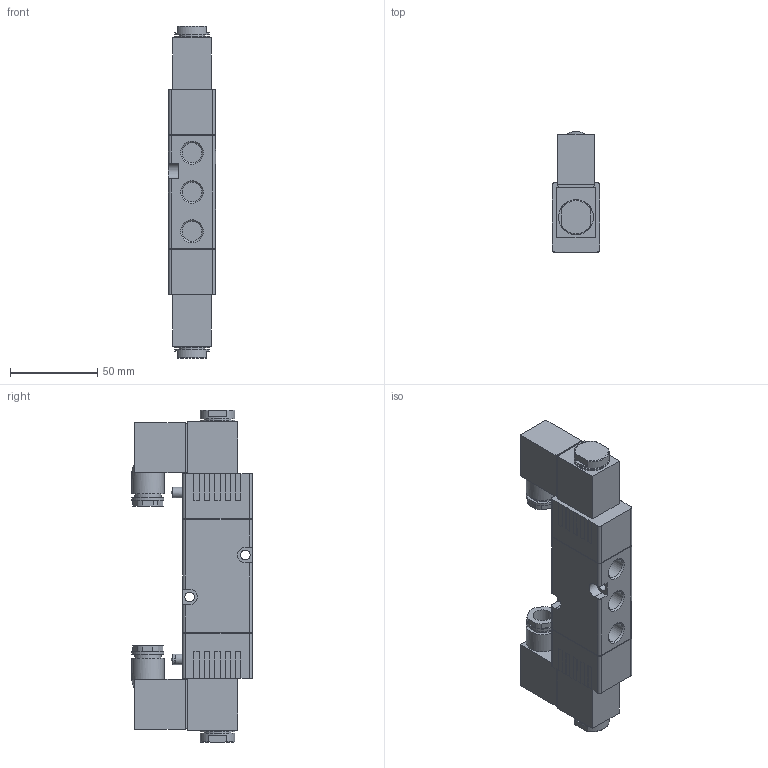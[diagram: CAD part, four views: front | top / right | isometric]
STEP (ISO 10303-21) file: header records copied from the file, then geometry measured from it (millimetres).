
FILE_DESCRIPTION(/* description */ ('STEP AP214'),/* implementation_level */ '2;1');
FILE_NAME(/* name */ '86-MN-4-14-520-M42.stp',/* time_stamp */ '2026-01-15T14:11:41+01:00',/* author */ ('Tschernatsch'),/* organization */ ('CADENAS'),/* preprocessor_version */ 'ST-DEVELOPER v20',/* originating_system */ 'Autodesk Inventor 2024',/* authorisation */ ' ');
FILE_SCHEMA (('AUTOMOTIVE_DESIGN { 1 0 10303 214 3 1 1 }'));
Length unit declared in the file: millimetre
Products named in the file (1): J4V320-08B-DC24V
Bounding box: 27 x 69.2 x 190.4 mm (x, y, z)
Volume: 202973.5 mm3; surface area: 37745.5 mm2
Topology: 1 solids, 1 shells, 310 faces, 782 edges, 499 vertices
Faces by surface type: plane 219, cylinder 62, cone 25, torus 4
Full cylindrical faces by diameter (mm): 5.3 x1, 5.5 x2, 6 x2, 10.8 x2, 11.445 x3, 13 x2, 15.2 x4, 18.4 x2, 18.6 x2, 20 x6
Entity records: 9653 total; most frequent: CARTESIAN_POINT 1715, ORIENTED_EDGE 1564, DIRECTION 1553, EDGE_CURVE 782, LINE 605, VECTOR 605, VERTEX_POINT 499, AXIS2_PLACEMENT_3D 474
